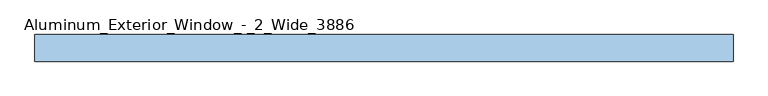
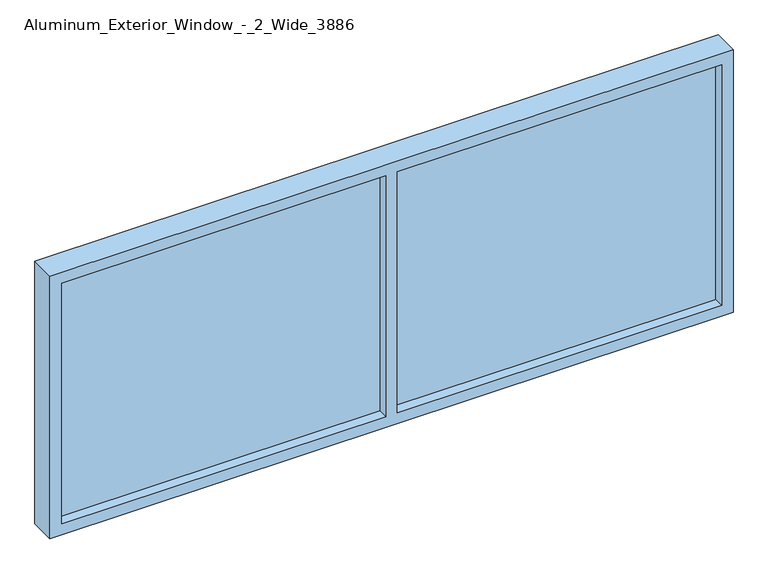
"""IFC4 building model written with IfcOpenShell, lengths in millimetres: window geometry."""

from ifc_helpers import new_model, si_unit, frame, origin, place, context, project, spatial, polyline, outline, extrude, source, transform, mapped, element, save


def aluminum_exterior_window_2_wide_3886_1d34d12d(model_context):
    return source(origin(), model_context, "Body", "SweptSolid", [
        extrude(outline(polyline([(153.8, 106.7075246), (1577.6, 106.7075246), (1577.6, 81.3075246), (153.8, 81.3075246), (153.8, 106.7075246)])), frame((0.0, 0.0, 1066.8), z_axis=(0.0, 0.0, 1.0), x_axis=(1.0, 0.0, 0.0)), (0.0, 0.0, 1.0), 1117.6),
        extrude(outline(polyline([(-1320.8, 106.7075246), (103.0, 106.7075246), (103.0, 81.3075246), (-1320.8, 81.3075246), (-1320.8, 106.7075246)])), frame((0.0, 0.0, 1066.8), z_axis=(0.0, 0.0, 1.0), x_axis=(1.0, 0.0, 0.0)), (0.0, 0.0, 1.0), 1117.6),
        extrude(outline(polyline([(2235.2, -1371.6), (1016.0, -1371.6), (1016.0, 1628.4), (2235.2, 1628.4), (2235.2, -1371.6)]), holes=[polyline([(2184.4, 153.8), (2184.4, 1577.6), (1066.8, 1577.6), (1066.8, 153.8), (2184.4, 153.8)]), polyline([(2184.4, -1320.8), (2184.4, 103.0), (1066.8, 103.0), (1066.8, -1320.8), (2184.4, -1320.8)])]), frame((0.0, 36.8575246, 0.0), z_axis=(0.0, 1.0, 0.0), x_axis=(0.0, 0.0, 1.0)), (0.0, 0.0, 1.0), 114.3),
    ])


if __name__ == "__main__":
    model = new_model("IFC4")
    model_context = context("Model", 3, world=origin())
    ifc_project = project(units=[si_unit("LENGTHUNIT", "METRE", prefix="MILLI")], contexts=[model_context])
    site = spatial("IfcSite", under=ifc_project)
    building = spatial("IfcBuilding", under=site)
    placement = place(None, origin())
    aluminum_exterior_window_2_wide_3886_shape = aluminum_exterior_window_2_wide_3886_1d34d12d(model_context)
    element("IfcWindow", 1, ObjectType="Aluminum_Exterior_Window_-_2_Wide_3886 : 72\"W. x 48\"H. 2", at=placement, inside=building, context=model_context, shape_type="MappedRepresentation", body=[
        mapped(aluminum_exterior_window_2_wide_3886_shape, transform((0.0, 0.0, 0.0), x_axis=(1.0, 0.0, 0.0), y_axis=(0.0, 1.0, 0.0), z_axis=(0.0, 0.0, 1.0))),
    ])
    save(model, "model.ifc")
